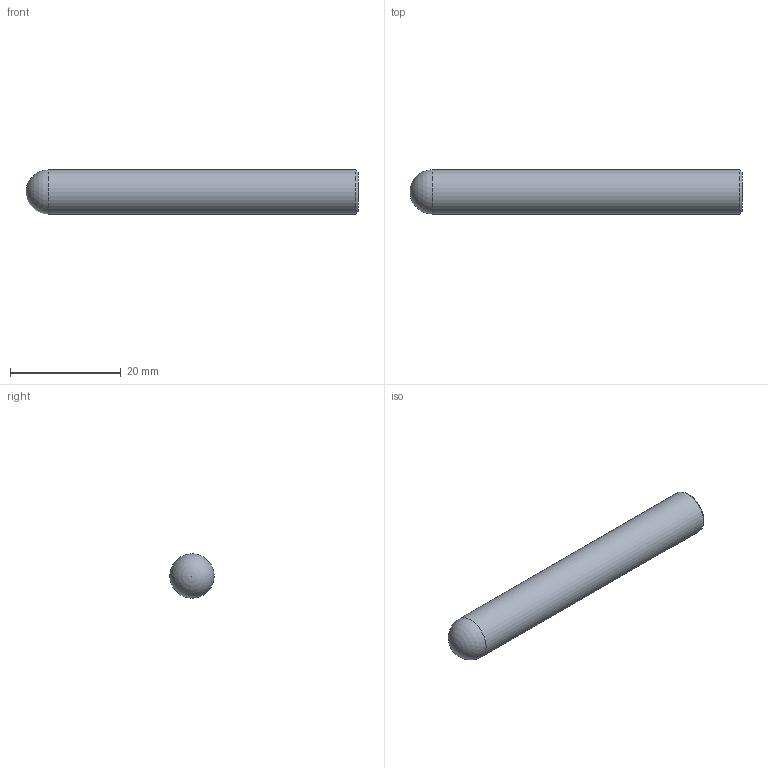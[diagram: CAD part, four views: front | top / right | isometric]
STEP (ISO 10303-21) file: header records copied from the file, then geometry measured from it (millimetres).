
FILE_DESCRIPTION(/* description */ (''),/* implementation_level */ '2;1');
FILE_NAME(/* name */ 'HSXB2080 0860.stp',/* time_stamp */ '2026-08-01T17:17:01+08:00',/* author */ (''),/* organization */ (''),/* preprocessor_version */ 'ST-DEVELOPER v16',/* originating_system */ 'SIEMENS PLM Software NX 10.0',/* authorisation */ '');
FILE_SCHEMA (('CONFIG_CONTROL_DESIGN'));
Length unit declared in the file: millimetre
Products named in the file (1): HSXB2080 0860_dxf
Bounding box: 60 x 8 x 8 mm (x, y, z)
Volume: 2947 mm3; surface area: 1552.1 mm2
Topology: 1 solids, 1 shells, 4 faces, 8 edges, 5 vertices
Faces by surface type: plane 1, sphere 1, cylinder 1, cone 1
Full cylindrical faces by diameter (mm): 8 x1
Entity records: 158 total; most frequent: DIRECTION 16, CARTESIAN_POINT 11, AXIS2_PLACEMENT_3D 8, PERSON_AND_ORGANIZATION 7, ORGANIZATION 7, EDGE_LOOP 6, ORIENTED_EDGE 6, DATE_AND_TIME 5
